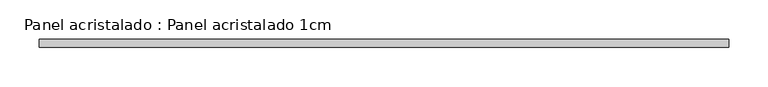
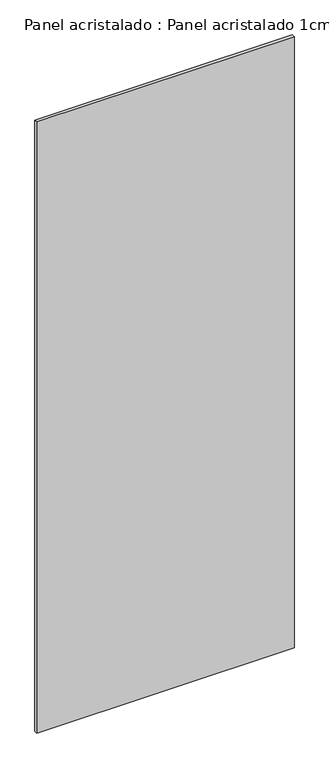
"""IFC4 building model written with IfcOpenShell, lengths in millimetres: plate geometry, Panel acristalado : Panel acristalado 1cm."""

from ifc_helpers import new_model, si_unit, origin, origin_with_axes, place, context, project, spatial, polyline, outline, extrude, source, transform, mapped, element, save


def panel_acristalado_panel_acristalado_1cm_a9741e59(model_context):
    return source(origin(), model_context, "Body", "SweptSolid", [
        extrude(outline(polyline([(438.2499997, 20.0), (-438.2499997, 20.0), (-438.2499997, 30.0), (438.2499997, 30.0), (438.2499997, 20.0)])), origin_with_axes(), (0.0, 0.0, 1.0), 2200.0),
    ])


if __name__ == "__main__":
    model = new_model("IFC4")
    model_context = context("Model", 3, world=origin())
    ifc_project = project(units=[si_unit("LENGTHUNIT", "METRE", prefix="MILLI")], contexts=[model_context])
    site = spatial("IfcSite", under=ifc_project)
    building = spatial("IfcBuilding", under=site)
    placement = place(None, origin())
    panel_acristalado_panel_acristalado_1cm_shape = panel_acristalado_panel_acristalado_1cm_a9741e59(model_context)
    element("IfcPlate", 1, ObjectType="Panel acristalado : Panel acristalado 1cm", at=placement, inside=building, context=model_context, shape_type="MappedRepresentation", body=[
        mapped(panel_acristalado_panel_acristalado_1cm_shape, transform((0.0, 0.0, 0.0), x_axis=(1.0, 0.0, 0.0), y_axis=(0.0, 1.0, 0.0), z_axis=(0.0, 0.0, 1.0))),
    ])
    save(model, "model.ifc")
